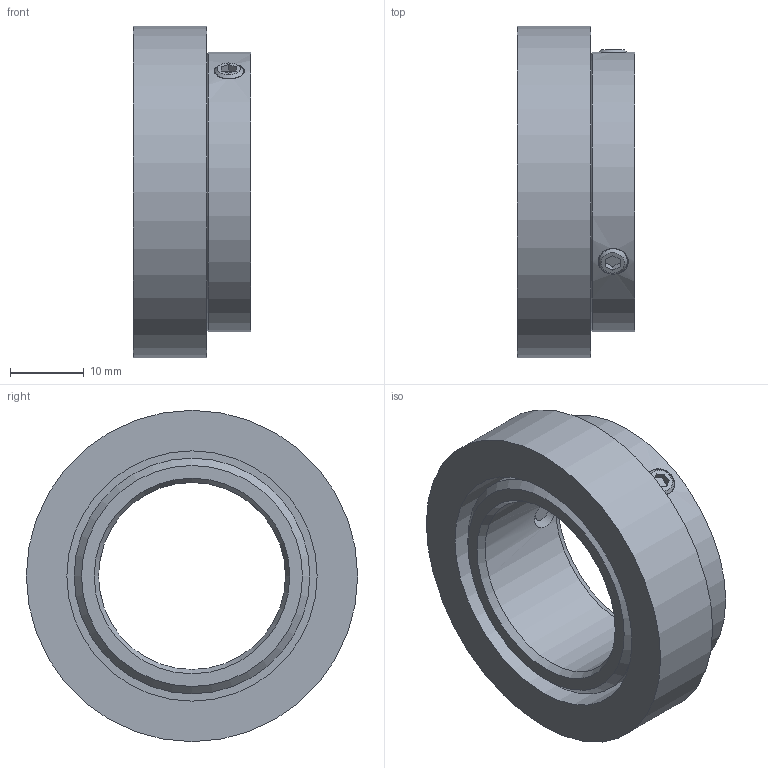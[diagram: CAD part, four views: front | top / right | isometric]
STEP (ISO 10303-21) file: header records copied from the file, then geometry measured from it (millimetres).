
FILE_DESCRIPTION (( 'STEP AP203' ), '1' );
FILE_NAME ('8.RI20.045.2540.111.STEP', '2013-07-30T12:01:10', ( 'Hodot' ), ( '' ), 'SwSTEP 2.0', 'SolidWorks 2012', '' );
FILE_SCHEMA (( 'CONFIG_CONTROL_DESIGN' ));
Length unit declared in the file: millimetre
Products named in the file (1): 8.RI20.045.2540.111
Bounding box: 16 x 45 x 45 mm (x, y, z)
Volume: 13233.2 mm3; surface area: 8204.5 mm2
Topology: 4 solids, 4 shells, 52 faces, 115 edges, 75 vertices
Faces by surface type: plane 30, cylinder 15, cone 7
Full cylindrical faces by diameter (mm): 2.5 x2, 4 x4, 25.4 x1, 32 x1, 34 x1, 38 x1, 45 x1
Entity records: 1537 total; most frequent: CARTESIAN_POINT 407, DIRECTION 220, ORIENTED_EDGE 178, EDGE_CURVE 89, AXIS2_PLACEMENT_3D 88, EDGE_LOOP 82, VERTEX_POINT 67, FACE_OUTER_BOUND 63
